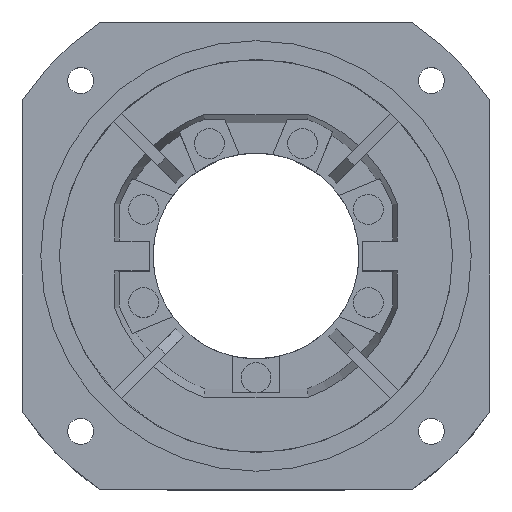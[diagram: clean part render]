
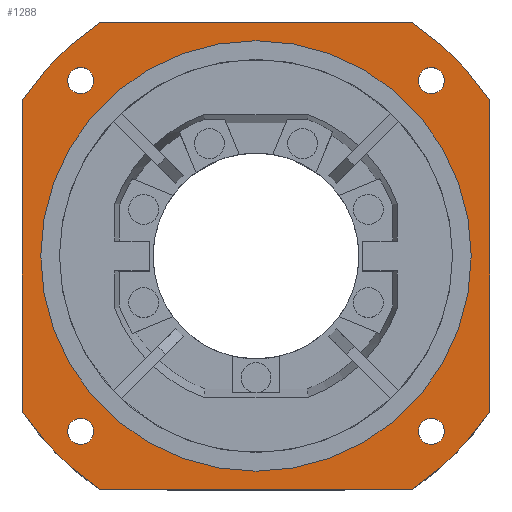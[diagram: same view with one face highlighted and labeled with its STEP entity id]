
A CAD part, top view. The second image highlights one B-rep face of the part: STEP entity #1288.
In plain terms, the highlighted planar face has unit normal (0, 0, 1) as drawn and (1, 0, 0) by its records, which use the part's own axes.
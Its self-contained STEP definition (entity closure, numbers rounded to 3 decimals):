
#1288=ADVANCED_FACE('',(#1458,#1391,#1392,#1393,#1394,#1395),#3893,.T.);
#1391=FACE_BOUND('',#1623,.T.);
#1392=FACE_BOUND('',#1624,.T.);
#1393=FACE_BOUND('',#1625,.T.);
#1394=FACE_BOUND('',#1626,.T.);
#1395=FACE_BOUND('',#1627,.T.);
#1458=FACE_OUTER_BOUND('',#1622,.T.);
#1622=EDGE_LOOP('',(#2160,#2161,#2162,#2163,#2164,#2165,#2166,#2167));
#1623=EDGE_LOOP('',(#2168,#2169));
#1624=EDGE_LOOP('',(#2170,#2171));
#1625=EDGE_LOOP('',(#2172,#2173));
#1626=EDGE_LOOP('',(#2174,#2175));
#1627=EDGE_LOOP('',(#2176,#2177));
#2160=ORIENTED_EDGE('',*,*,#2774,.F.);
#2161=ORIENTED_EDGE('',*,*,#2752,.T.);
#2162=ORIENTED_EDGE('',*,*,#2585,.F.);
#2163=ORIENTED_EDGE('',*,*,#2592,.T.);
#2164=ORIENTED_EDGE('',*,*,#2597,.F.);
#2165=ORIENTED_EDGE('',*,*,#2755,.T.);
#2166=ORIENTED_EDGE('',*,*,#2758,.F.);
#2167=ORIENTED_EDGE('',*,*,#2760,.T.);
#2168=ORIENTED_EDGE('',*,*,#2770,.T.);
#2169=ORIENTED_EDGE('',*,*,#2946,.T.);
#2170=ORIENTED_EDGE('',*,*,#2767,.T.);
#2171=ORIENTED_EDGE('',*,*,#2943,.T.);
#2172=ORIENTED_EDGE('',*,*,#2764,.T.);
#2173=ORIENTED_EDGE('',*,*,#2940,.T.);
#2174=ORIENTED_EDGE('',*,*,#2761,.T.);
#2175=ORIENTED_EDGE('',*,*,#2937,.T.);
#2176=ORIENTED_EDGE('',*,*,#2776,.T.);
#2177=ORIENTED_EDGE('',*,*,#2950,.T.);
#2585=EDGE_CURVE('',#3570,#3571,#2995,.T.);
#2592=EDGE_CURVE('',#3570,#3575,#3269,.T.);
#2597=EDGE_CURVE('',#3577,#3575,#2998,.T.);
#2752=EDGE_CURVE('',#3732,#3571,#3384,.T.);
#2755=EDGE_CURVE('',#3577,#3733,#3387,.T.);
#2758=EDGE_CURVE('',#3734,#3733,#3035,.T.);
#2760=EDGE_CURVE('',#3734,#3735,#3390,.T.);
#2761=EDGE_CURVE('',#3736,#3772,#3036,.T.);
#2764=EDGE_CURVE('',#3737,#3774,#3038,.T.);
#2767=EDGE_CURVE('',#3738,#3776,#3040,.T.);
#2770=EDGE_CURVE('',#3739,#3778,#3042,.T.);
#2774=EDGE_CURVE('',#3732,#3735,#3045,.T.);
#2776=EDGE_CURVE('',#3740,#3780,#3047,.T.);
#2937=EDGE_CURVE('',#3772,#3736,#3088,.T.);
#2940=EDGE_CURVE('',#3774,#3737,#3090,.T.);
#2943=EDGE_CURVE('',#3776,#3738,#3092,.T.);
#2946=EDGE_CURVE('',#3778,#3739,#3094,.T.);
#2950=EDGE_CURVE('',#3780,#3740,#3097,.T.);
#2995=TRIMMED_CURVE($,#3117,(#5475),(#5476),.T.,.CARTESIAN.);
#2998=TRIMMED_CURVE($,#3120,(#5502),(#5503),.T.,.CARTESIAN.);
#3035=TRIMMED_CURVE($,#3157,(#5905),(#5906),.T.,.CARTESIAN.);
#3036=TRIMMED_CURVE($,#3158,(#5912),(#5913),.T.,.CARTESIAN.);
#3038=TRIMMED_CURVE($,#3160,(#5920),(#5921),.T.,.CARTESIAN.);
#3040=TRIMMED_CURVE($,#3162,(#5928),(#5929),.T.,.CARTESIAN.);
#3042=TRIMMED_CURVE($,#3164,(#5936),(#5937),.T.,.CARTESIAN.);
#3045=TRIMMED_CURVE($,#3167,(#5947),(#5948),.T.,.CARTESIAN.);
#3047=TRIMMED_CURVE($,#3169,(#5953),(#5954),.T.,.CARTESIAN.);
#3088=TRIMMED_CURVE($,#3210,(#6380),(#6381),.T.,.CARTESIAN.);
#3090=TRIMMED_CURVE($,#3212,(#6388),(#6389),.T.,.CARTESIAN.);
#3092=TRIMMED_CURVE($,#3214,(#6396),(#6397),.T.,.CARTESIAN.);
#3094=TRIMMED_CURVE($,#3216,(#6404),(#6405),.T.,.CARTESIAN.);
#3097=TRIMMED_CURVE($,#3219,(#6415),(#6416),.T.,.CARTESIAN.);
#3117=CIRCLE('',#4268,150.);
#3120=CIRCLE('',#4271,150.);
#3157=CIRCLE('',#4308,150.);
#3158=CIRCLE('',#4309,7.);
#3160=CIRCLE('',#4311,7.);
#3162=CIRCLE('',#4313,7.);
#3164=CIRCLE('',#4315,7.);
#3167=CIRCLE('',#4318,150.);
#3169=CIRCLE('',#4320,115.);
#3210=CIRCLE('',#4361,7.);
#3212=CIRCLE('',#4363,7.);
#3214=CIRCLE('',#4365,7.);
#3216=CIRCLE('',#4367,7.);
#3219=CIRCLE('',#4370,115.);
#3269=B_SPLINE_CURVE_WITH_KNOTS('',1,(#5490,#5491),.UNSPECIFIED.,.F.,.F.,
(2,2),(-165.831,0.),.UNSPECIFIED.);
#3384=B_SPLINE_CURVE_WITH_KNOTS('',1,(#5891,#5892),.UNSPECIFIED.,.F.,.F.,
(2,2),(-165.831,0.),.UNSPECIFIED.);
#3387=B_SPLINE_CURVE_WITH_KNOTS('',1,(#5897,#5898),.UNSPECIFIED.,.F.,.F.,
(2,2),(-165.831,0.),.UNSPECIFIED.);
#3390=B_SPLINE_CURVE_WITH_KNOTS('',1,(#5909,#5910),.UNSPECIFIED.,.F.,.F.,
(2,2),(-165.831,0.),.UNSPECIFIED.);
#3570=VERTEX_POINT('',#5189);
#3571=VERTEX_POINT('',#5190);
#3575=VERTEX_POINT('',#5194);
#3577=VERTEX_POINT('',#5196);
#3732=VERTEX_POINT('',#5351);
#3733=VERTEX_POINT('',#5352);
#3734=VERTEX_POINT('',#5353);
#3735=VERTEX_POINT('',#5354);
#3736=VERTEX_POINT('',#5355);
#3737=VERTEX_POINT('',#5356);
#3738=VERTEX_POINT('',#5357);
#3739=VERTEX_POINT('',#5358);
#3740=VERTEX_POINT('',#5359);
#3772=VERTEX_POINT('',#5391);
#3774=VERTEX_POINT('',#5393);
#3776=VERTEX_POINT('',#5395);
#3778=VERTEX_POINT('',#5397);
#3780=VERTEX_POINT('',#5399);
#3893=PLANE('',#4177);
#4177=AXIS2_PLACEMENT_3D('',#5049,#4444,$);
#4268=AXIS2_PLACEMENT_3D($,#5474,#4536,#4537);
#4271=AXIS2_PLACEMENT_3D($,#5501,#4542,#4543);
#4308=AXIS2_PLACEMENT_3D($,#5904,#4616,#4617);
#4309=AXIS2_PLACEMENT_3D($,#5911,#4618,#4619);
#4311=AXIS2_PLACEMENT_3D($,#5919,#4622,#4623);
#4313=AXIS2_PLACEMENT_3D($,#5927,#4626,#4627);
#4315=AXIS2_PLACEMENT_3D($,#5935,#4630,#4631);
#4318=AXIS2_PLACEMENT_3D($,#5946,#4636,#4637);
#4320=AXIS2_PLACEMENT_3D($,#5952,#4640,#4641);
#4361=AXIS2_PLACEMENT_3D($,#6379,#4722,#4723);
#4363=AXIS2_PLACEMENT_3D($,#6387,#4726,#4727);
#4365=AXIS2_PLACEMENT_3D($,#6395,#4730,#4731);
#4367=AXIS2_PLACEMENT_3D($,#6403,#4734,#4735);
#4370=AXIS2_PLACEMENT_3D($,#6414,#4740,#4741);
#4444=DIRECTION('',(1.,0.,0.));
#4536=DIRECTION('',(-1.,0.,0.));
#4537=DIRECTION('',(0.,-0.833,0.553));
#4542=DIRECTION('',(-1.,0.,0.));
#4543=DIRECTION('',(0.,-0.553,-0.833));
#4616=DIRECTION('',(-1.,0.,0.));
#4617=DIRECTION('',(0.,0.833,-0.553));
#4618=DIRECTION('',(-1.,0.,0.));
#4619=DIRECTION('',(0.,0.,-1.));
#4622=DIRECTION('',(-1.,0.,0.));
#4623=DIRECTION('',(0.,0.,-1.));
#4626=DIRECTION('',(-1.,0.,0.));
#4627=DIRECTION('',(0.,0.,-1.));
#4630=DIRECTION('',(-1.,0.,0.));
#4631=DIRECTION('',(0.,0.,-1.));
#4636=DIRECTION('',(-1.,0.,0.));
#4637=DIRECTION('',(0.,0.553,0.833));
#4640=DIRECTION('',(-1.,0.,0.));
#4641=DIRECTION('',(0.,0.,-1.));
#4722=DIRECTION('',(-1.,0.,0.));
#4723=DIRECTION('',(0.,0.,1.));
#4726=DIRECTION('',(-1.,0.,0.));
#4727=DIRECTION('',(0.,0.,1.));
#4730=DIRECTION('',(-1.,0.,0.));
#4731=DIRECTION('',(0.,0.,1.));
#4734=DIRECTION('',(-1.,0.,0.));
#4735=DIRECTION('',(0.,0.,1.));
#4740=DIRECTION('',(-1.,0.,0.));
#4741=DIRECTION('',(0.,0.,1.));
#5049=CARTESIAN_POINT('',(32.,-150.06,150.06));
#5189=CARTESIAN_POINT('',(32.,-125.,82.916));
#5190=CARTESIAN_POINT('',(32.,-82.916,125.));
#5194=CARTESIAN_POINT('',(32.,-125.,-82.916));
#5196=CARTESIAN_POINT('',(32.,-82.916,-125.));
#5351=CARTESIAN_POINT('',(32.,82.916,125.));
#5352=CARTESIAN_POINT('',(32.,82.916,-125.));
#5353=CARTESIAN_POINT('',(32.,125.,-82.916));
#5354=CARTESIAN_POINT('',(32.,125.,82.916));
#5355=CARTESIAN_POINT('',(32.,-93.692,-100.692));
#5356=CARTESIAN_POINT('',(32.,93.692,-100.692));
#5357=CARTESIAN_POINT('',(32.,93.692,86.692));
#5358=CARTESIAN_POINT('',(32.,-93.692,86.692));
#5359=CARTESIAN_POINT('',(32.,0.,-115.));
#5391=CARTESIAN_POINT('',(32.,-93.692,-86.692));
#5393=CARTESIAN_POINT('',(32.,93.692,-86.692));
#5395=CARTESIAN_POINT('',(32.,93.692,100.692));
#5397=CARTESIAN_POINT('',(32.,-93.692,100.692));
#5399=CARTESIAN_POINT('',(32.,0.,115.));
#5474=CARTESIAN_POINT('',(32.,0.,0.));
#5475=CARTESIAN_POINT('',(32.,-125.,82.916));
#5476=CARTESIAN_POINT('',(32.,-82.916,125.));
#5490=CARTESIAN_POINT('',(32.,-125.,82.916));
#5491=CARTESIAN_POINT('',(32.,-125.,-82.916));
#5501=CARTESIAN_POINT('',(32.,0.,0.));
#5502=CARTESIAN_POINT('',(32.,-82.916,-125.));
#5503=CARTESIAN_POINT('',(32.,-125.,-82.916));
#5891=CARTESIAN_POINT('',(32.,82.916,125.));
#5892=CARTESIAN_POINT('',(32.,-82.916,125.));
#5897=CARTESIAN_POINT('',(32.,-82.916,-125.));
#5898=CARTESIAN_POINT('',(32.,82.916,-125.));
#5904=CARTESIAN_POINT('',(32.,0.,0.));
#5905=CARTESIAN_POINT('',(32.,125.,-82.916));
#5906=CARTESIAN_POINT('',(32.,82.916,-125.));
#5909=CARTESIAN_POINT('',(32.,125.,-82.916));
#5910=CARTESIAN_POINT('',(32.,125.,82.916));
#5911=CARTESIAN_POINT('',(32.,-93.692,-93.692));
#5912=CARTESIAN_POINT('',(32.,-93.692,-100.692));
#5913=CARTESIAN_POINT('',(32.,-93.692,-86.692));
#5919=CARTESIAN_POINT('',(32.,93.692,-93.692));
#5920=CARTESIAN_POINT('',(32.,93.692,-100.692));
#5921=CARTESIAN_POINT('',(32.,93.692,-86.692));
#5927=CARTESIAN_POINT('',(32.,93.692,93.692));
#5928=CARTESIAN_POINT('',(32.,93.692,86.692));
#5929=CARTESIAN_POINT('',(32.,93.692,100.692));
#5935=CARTESIAN_POINT('',(32.,-93.692,93.692));
#5936=CARTESIAN_POINT('',(32.,-93.692,86.692));
#5937=CARTESIAN_POINT('',(32.,-93.692,100.692));
#5946=CARTESIAN_POINT('',(32.,0.,0.));
#5947=CARTESIAN_POINT('',(32.,82.916,125.));
#5948=CARTESIAN_POINT('',(32.,125.,82.916));
#5952=CARTESIAN_POINT('',(32.,0.,0.));
#5953=CARTESIAN_POINT('',(32.,0.,-115.));
#5954=CARTESIAN_POINT('',(32.,0.,115.));
#6379=CARTESIAN_POINT('',(32.,-93.692,-93.692));
#6380=CARTESIAN_POINT('',(32.,-93.692,-86.692));
#6381=CARTESIAN_POINT('',(32.,-93.692,-100.692));
#6387=CARTESIAN_POINT('',(32.,93.692,-93.692));
#6388=CARTESIAN_POINT('',(32.,93.692,-86.692));
#6389=CARTESIAN_POINT('',(32.,93.692,-100.692));
#6395=CARTESIAN_POINT('',(32.,93.692,93.692));
#6396=CARTESIAN_POINT('',(32.,93.692,100.692));
#6397=CARTESIAN_POINT('',(32.,93.692,86.692));
#6403=CARTESIAN_POINT('',(32.,-93.692,93.692));
#6404=CARTESIAN_POINT('',(32.,-93.692,100.692));
#6405=CARTESIAN_POINT('',(32.,-93.692,86.692));
#6414=CARTESIAN_POINT('',(32.,0.,0.));
#6415=CARTESIAN_POINT('',(32.,0.,115.));
#6416=CARTESIAN_POINT('',(32.,0.,-115.));
